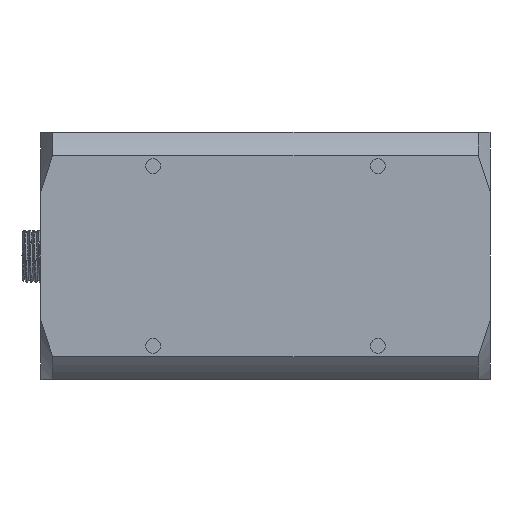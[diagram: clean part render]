
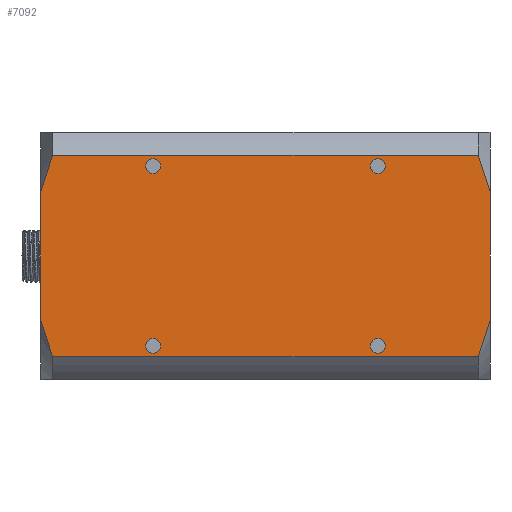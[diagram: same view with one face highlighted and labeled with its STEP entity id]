
A CAD part, front view. The second image highlights one B-rep face of the part: STEP entity #7092.
In plain terms, the highlighted planar face has unit normal (0, -1, 0).
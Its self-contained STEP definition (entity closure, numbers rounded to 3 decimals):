
#977=LINE('',#36156,#2969);
#979=LINE('',#36173,#2971);
#981=LINE('',#36188,#2973);
#983=LINE('',#36196,#2975);
#2969=VECTOR('',#29503,1.);
#2971=VECTOR('',#29517,1.);
#2973=VECTOR('',#29525,1.);
#2975=VECTOR('',#29535,1.);
#5496=FACE_BOUND('',#10112,.T.);
#5497=FACE_BOUND('',#10113,.T.);
#5498=FACE_BOUND('',#10114,.T.);
#5499=FACE_BOUND('',#10115,.T.);
#5500=FACE_BOUND('',#10116,.T.);
#6276=PLANE('',#27307);
#7092=ADVANCED_FACE('',(#5496,#5497,#5498,#5499,#5500),#6276,.T.);
#10112=EDGE_LOOP('',(#13054));
#10113=EDGE_LOOP('',(#13055));
#10114=EDGE_LOOP('',(#13056));
#10115=EDGE_LOOP('',(#13057));
#10116=EDGE_LOOP('',(#13058,#13059,#13060,#13061,#13062,#13063,#13064,#13065));
#12128=CIRCLE('',#27303,1.65);
#12129=CIRCLE('',#27304,1.65);
#12130=CIRCLE('',#27305,1.65);
#12131=CIRCLE('',#27306,1.65);
#13054=ORIENTED_EDGE('',*,*,#22705,.T.);
#13055=ORIENTED_EDGE('',*,*,#22706,.T.);
#13056=ORIENTED_EDGE('',*,*,#22707,.T.);
#13057=ORIENTED_EDGE('',*,*,#22708,.T.);
#13058=ORIENTED_EDGE('',*,*,#22701,.F.);
#13059=ORIENTED_EDGE('',*,*,#22709,.T.);
#13060=ORIENTED_EDGE('',*,*,#22684,.F.);
#13061=ORIENTED_EDGE('',*,*,#22682,.F.);
#13062=ORIENTED_EDGE('',*,*,#22691,.T.);
#13063=ORIENTED_EDGE('',*,*,#22692,.F.);
#13064=ORIENTED_EDGE('',*,*,#22696,.F.);
#13065=ORIENTED_EDGE('',*,*,#22654,.T.);
#20206=VERTEX_POINT('',#36061);
#20207=VERTEX_POINT('',#36062);
#20230=VERTEX_POINT('',#36148);
#20231=VERTEX_POINT('',#36153);
#20232=VERTEX_POINT('',#36157);
#20236=VERTEX_POINT('',#36172);
#20237=VERTEX_POINT('',#36179);
#20240=VERTEX_POINT('',#36195);
#20242=VERTEX_POINT('',#36208);
#20243=VERTEX_POINT('',#36210);
#20244=VERTEX_POINT('',#36212);
#20245=VERTEX_POINT('',#36214);
#22654=EDGE_CURVE('',#20206,#20207,#26272,.T.);
#22682=EDGE_CURVE('',#20230,#20231,#26282,.T.);
#22684=EDGE_CURVE('',#20231,#20232,#977,.T.);
#22691=EDGE_CURVE('',#20230,#20236,#979,.T.);
#22692=EDGE_CURVE('',#20237,#20236,#26284,.T.);
#22696=EDGE_CURVE('',#20206,#20237,#981,.T.);
#22701=EDGE_CURVE('',#20240,#20207,#983,.T.);
#22705=EDGE_CURVE('',#20242,#20242,#12128,.T.);
#22706=EDGE_CURVE('',#20243,#20243,#12129,.T.);
#22707=EDGE_CURVE('',#20244,#20244,#12130,.T.);
#22708=EDGE_CURVE('',#20245,#20245,#12131,.T.);
#22709=EDGE_CURVE('',#20240,#20232,#26287,.T.);
#26272=B_SPLINE_CURVE_WITH_KNOTS('',3,(#36057,#36058,#36059,#36060),
 .UNSPECIFIED.,.F.,.F.,(4,4),(0.,1.),.UNSPECIFIED.);
#26282=B_SPLINE_CURVE_WITH_KNOTS('',3,(#36149,#36150,#36151,#36152),
 .UNSPECIFIED.,.F.,.F.,(4,4),(0.,1.),.UNSPECIFIED.);
#26284=B_SPLINE_CURVE_WITH_KNOTS('',3,(#36175,#36176,#36177,#36178),
 .UNSPECIFIED.,.F.,.F.,(4,4),(0.,1.),.UNSPECIFIED.);
#26287=B_SPLINE_CURVE_WITH_KNOTS('',3,(#36215,#36216,#36217,#36218),
 .UNSPECIFIED.,.F.,.F.,(4,4),(0.,1.),.UNSPECIFIED.);
#27303=AXIS2_PLACEMENT_3D('',#36207,#29545,#29546);
#27304=AXIS2_PLACEMENT_3D('',#36209,#29547,#29548);
#27305=AXIS2_PLACEMENT_3D('',#36211,#29549,#29550);
#27306=AXIS2_PLACEMENT_3D('',#36213,#29551,#29552);
#27307=AXIS2_PLACEMENT_3D('',#36219,#29553,#29554);
#29503=DIRECTION('',(1.,0.,0.));
#29517=DIRECTION('',(0.,0.,-1.));
#29525=DIRECTION('',(-1.,0.,0.));
#29535=DIRECTION('',(0.,0.,-1.));
#29545=DIRECTION('',(0.,1.,0.));
#29546=DIRECTION('',(0.,0.,1.));
#29547=DIRECTION('',(0.,1.,0.));
#29548=DIRECTION('',(0.,0.,1.));
#29549=DIRECTION('',(0.,1.,0.));
#29550=DIRECTION('',(0.,0.,1.));
#29551=DIRECTION('',(0.,1.,0.));
#29552=DIRECTION('',(0.,0.,1.));
#29553=DIRECTION('',(0.,-1.,0.));
#29554=DIRECTION('',(0.,0.,1.));
#36057=CARTESIAN_POINT('',(92.402,-49.49,-241.95));
#36058=CARTESIAN_POINT('',(93.384,-49.49,-239.26));
#36059=CARTESIAN_POINT('',(94.269,-49.49,-236.551));
#36060=CARTESIAN_POINT('',(95.,-49.49,-233.809));
#36061=CARTESIAN_POINT('',(92.402,-49.49,-241.95));
#36062=CARTESIAN_POINT('',(95.,-49.49,-233.809));
#36148=CARTESIAN_POINT('',(-5.,-49.49,-205.191));
#36149=CARTESIAN_POINT('',(-5.,-49.49,-205.191));
#36150=CARTESIAN_POINT('',(-4.269,-49.49,-202.449));
#36151=CARTESIAN_POINT('',(-3.384,-49.49,-199.74));
#36152=CARTESIAN_POINT('',(-2.402,-49.49,-197.05));
#36153=CARTESIAN_POINT('',(-2.402,-49.49,-197.05));
#36156=CARTESIAN_POINT('',(-5.,-49.49,-197.05));
#36157=CARTESIAN_POINT('',(92.402,-49.49,-197.05));
#36172=CARTESIAN_POINT('',(-5.,-49.49,-233.809));
#36173=CARTESIAN_POINT('',(-5.,-49.49,-244.5));
#36175=CARTESIAN_POINT('',(-2.402,-49.49,-241.95));
#36176=CARTESIAN_POINT('',(-3.384,-49.49,-239.26));
#36177=CARTESIAN_POINT('',(-4.269,-49.49,-236.551));
#36178=CARTESIAN_POINT('',(-5.,-49.49,-233.809));
#36179=CARTESIAN_POINT('',(-2.402,-49.49,-241.95));
#36188=CARTESIAN_POINT('',(-5.,-49.49,-241.95));
#36195=CARTESIAN_POINT('',(95.,-49.49,-205.191));
#36196=CARTESIAN_POINT('',(95.,-49.49,-219.5));
#36207=CARTESIAN_POINT('',(20.,-49.49,-239.5));
#36208=CARTESIAN_POINT('',(20.,-49.49,-237.85));
#36209=CARTESIAN_POINT('',(20.,-49.49,-199.5));
#36210=CARTESIAN_POINT('',(20.,-49.49,-197.85));
#36211=CARTESIAN_POINT('',(70.,-49.49,-199.5));
#36212=CARTESIAN_POINT('',(70.,-49.49,-197.85));
#36213=CARTESIAN_POINT('',(70.,-49.49,-239.5));
#36214=CARTESIAN_POINT('',(70.,-49.49,-237.85));
#36215=CARTESIAN_POINT('',(95.,-49.49,-205.191));
#36216=CARTESIAN_POINT('',(94.269,-49.49,-202.449));
#36217=CARTESIAN_POINT('',(93.384,-49.49,-199.74));
#36218=CARTESIAN_POINT('',(92.402,-49.49,-197.05));
#36219=CARTESIAN_POINT('',(95.,-49.49,-244.5));
